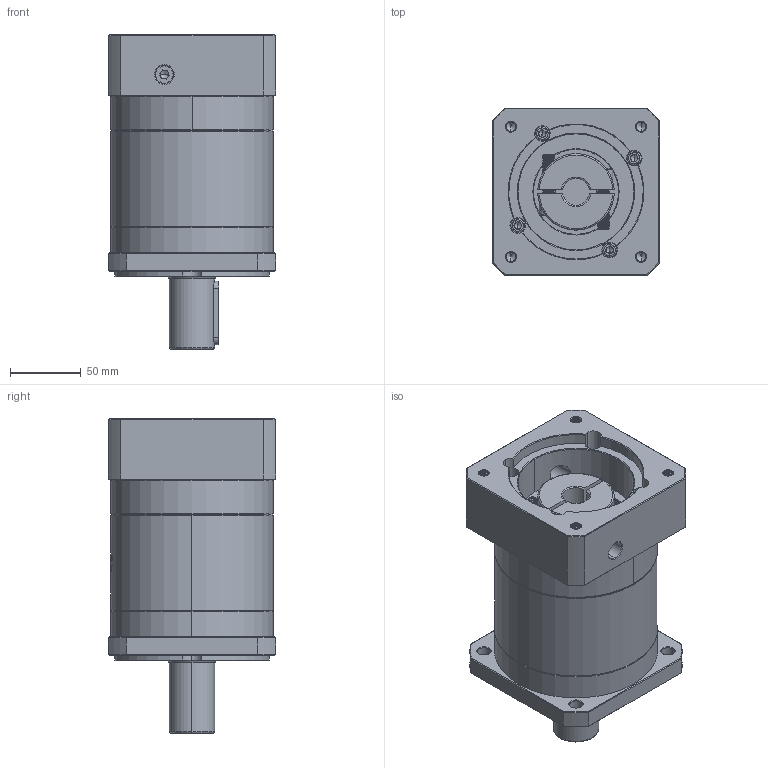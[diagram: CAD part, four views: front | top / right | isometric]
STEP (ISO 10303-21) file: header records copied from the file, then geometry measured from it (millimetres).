
FILE_DESCRIPTION (( 'STEP AP214' ), '1' );
FILE_NAME ('ZF120A-D32-L2-P2-19-95-130-M8.step', '2023-08-27T04:45:30', ( '' ), ( '' ), 'SwSTEP 2.0', 'SolidWorks 2016', '' );
FILE_SCHEMA (( 'AUTOMOTIVE_DESIGN' ));
Length unit declared in the file: millimetre
Products named in the file (1): ZF120A-D32-L2-P2-19-95-130-M8
Bounding box: 118 x 118 x 222 mm (x, y, z)
Volume: 1774307.9 mm3; surface area: 177301.1 mm2
Topology: 6 solids, 6 shells, 2226 faces, 5914 edges, 3789 vertices
Faces by surface type: plane 1034, cylinder 425, bspline 419, cone 328, torus 20
Entity records: 123328 total; most frequent: CARTESIAN_POINT 48954, ORIENTED_EDGE 11768, DIRECTION 8531, EDGE_CURVE 5884, VERTEX_POINT 3789, VECTOR 3099, LINE 3099, AXIS2_PLACEMENT_3D 2716
